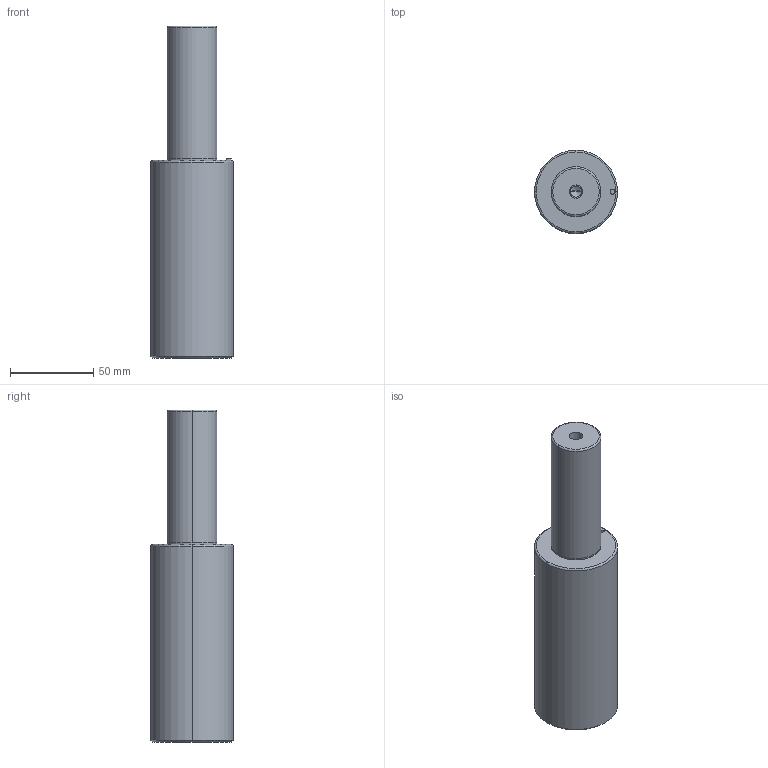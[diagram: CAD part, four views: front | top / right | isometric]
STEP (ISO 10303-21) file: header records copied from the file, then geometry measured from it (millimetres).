
FILE_DESCRIPTION(/* description */ (''),/* implementation_level */ '2;1');
FILE_NAME(/* name */ '3d_gsc50-80_03822_r00.stp',/* time_stamp */ '2011-01-10T14:15:21+09:00',/* author */ ('MISUMI'),/* organization */ (''),/* preprocessor_version */ 'ST-DEVELOPER v11',/* originating_system */ 'UGS - NX 5.0',/* authorisation */ '');
FILE_SCHEMA (('CONFIG_CONTROL_DESIGN'));
Length unit declared in the file: millimetre
Products named in the file (1): 3d_gsc50-80_03822_r00
Bounding box: 50 x 50 x 200 mm (x, y, z)
Volume: 288799.6 mm3; surface area: 30946.1 mm2
Topology: 1 solids, 1 shells, 32 faces, 66 edges, 38 vertices
Faces by surface type: cylinder 16, cone 6, plane 6, torus 4
Entity records: 912 total; most frequent: DIRECTION 168, CARTESIAN_POINT 133, ORIENTED_EDGE 124, AXIS2_PLACEMENT_3D 73, EDGE_CURVE 62, CIRCLE 40, EDGE_LOOP 38, VERTEX_POINT 38
